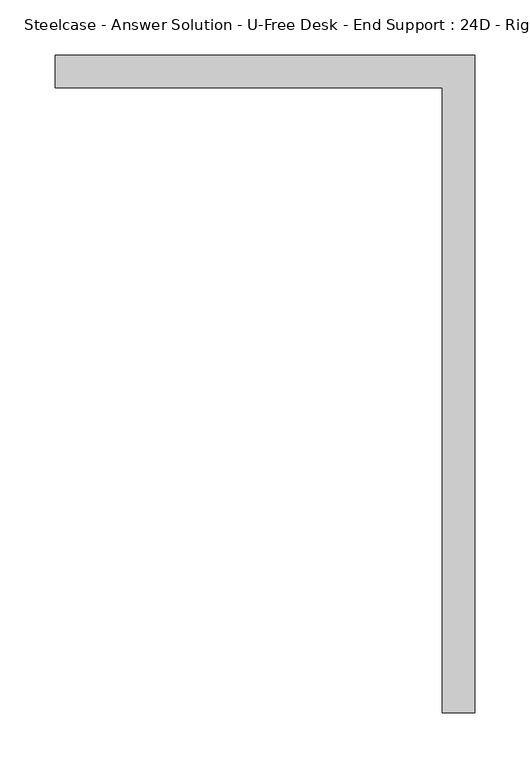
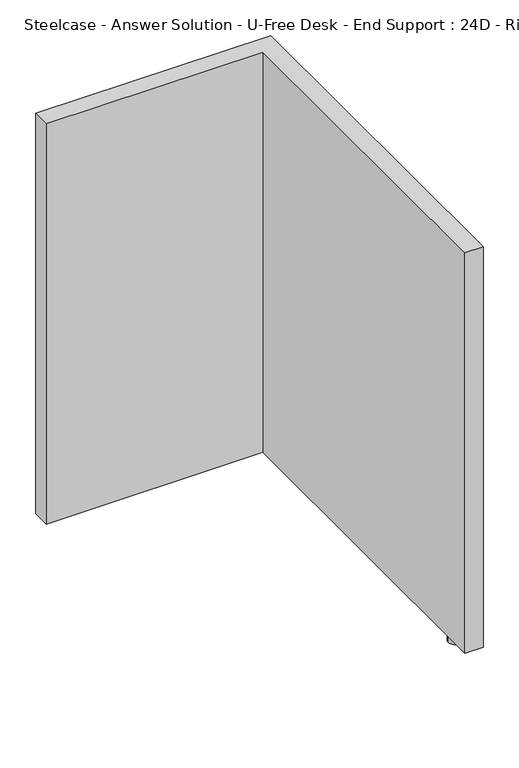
"""IFC4 building model written with IfcOpenShell, lengths in millimetres: furniture geometry, Steelcase - Answer Solution - U-Free Desk - End Support : 24D - Right."""

import ifcopenshell
import ifcopenshell.guid

model = None  # the IFC model being written
_history = None  # IfcOwnerHistory: only IFC2X3 demands one
_inside = {}  # id of a spatial element -> (the spatial element, [elements in it])
_under = {}  # id of a project, library or spatial element -> (it, [spatial elements below it])
_declared = {}  # id of a project -> (the project, [libraries it declares])
_typed = {}  # id of a type object -> (the type object, [elements of that type])
_made_of = {}  # id of a material, layer set ... -> (it, [elements and type objects made of it])


def new_model(schema):
    """Start an empty IFC model of exactly this schema.

    Asked for "IFC4X3", IfcOpenShell would pick the latest addendum, in which some entities
    have other attributes; the version numbers below select the first issue.
    IFC2X3 requires an IfcOwnerHistory on every rooted entity: one is made here for all.
    """
    global model, _history
    if schema == "IFC4X3":
        model = ifcopenshell.file(schema_version=(4, 3, 0, 0))
    else:
        model = ifcopenshell.file(schema=schema)
    _inside.clear()
    _under.clear()
    _declared.clear()
    _typed.clear()
    _made_of.clear()
    _history = None
    if model.schema == "IFC2X3":
        org = make("IfcOrganization", Name="unknown")
        user = make(
            "IfcPersonAndOrganization",
            ThePerson=make("IfcPerson", FamilyName="unknown"),
            TheOrganization=org,
        )
        app = make(
            "IfcApplication",
            ApplicationDeveloper=org,
            Version="unknown",
            ApplicationFullName="unknown",
            ApplicationIdentifier="unknown",
        )
        _history = make(
            "IfcOwnerHistory",
            OwningUser=user,
            OwningApplication=app,
            ChangeAction="ADDED",
            CreationDate=0,
        )
    return model


def make(cls, **values):
    """One entity of the class cls with the attributes given. An attribute that is None is left unset."""
    return model.create_entity(
        cls, **{name: value for name, value in values.items() if value is not None}
    )


def rooted(cls, **values):
    """An entity with a GlobalId (a new one), such as an element, a storey or a relation."""
    return make(cls, GlobalId=ifcopenshell.guid.new(), OwnerHistory=_history, **values)


def si_unit(unit_type, name, prefix=None):
    """IfcSIUnit, for example si_unit("LENGTHUNIT", "METRE", prefix="MILLI")."""
    return make("IfcSIUnit", UnitType=unit_type, Prefix=prefix, Name=name)


def assignment(units):
    """IfcUnitAssignment: the units of a project."""
    return None if units is None else make("IfcUnitAssignment", Units=units)


def point(xyz):
    """IfcCartesianPoint."""
    return None if xyz is None else make("IfcCartesianPoint", Coordinates=xyz)


def direction(xyz):
    """IfcDirection."""
    return None if xyz is None else make("IfcDirection", DirectionRatios=xyz)


def frame(location, z_axis=None, x_axis=None):
    """IfcAxis2Placement3D, a coordinate frame: its origin and axes. An axis left out is left unset."""
    return make(
        "IfcAxis2Placement3D",
        Location=point(location),
        Axis=direction(z_axis),
        RefDirection=direction(x_axis),
    )


def frame_2d(location, x_axis=None):
    """IfcAxis2Placement2D, a coordinate frame in the plane: its origin and x axis."""
    return make(
        "IfcAxis2Placement2D", Location=point(location), RefDirection=direction(x_axis)
    )


def origin():
    """The frame at (0, 0, 0) with its axes left unset."""
    return frame((0.0, 0.0, 0.0))


def origin_with_axes():
    """The frame at (0, 0, 0) with the z axis (0, 0, 1) and the x axis (1, 0, 0) written out."""
    return frame((0.0, 0.0, 0.0), z_axis=(0.0, 0.0, 1.0), x_axis=(1.0, 0.0, 0.0))


def place(relative_to, where):
    """IfcLocalPlacement: puts the frame where relative to a parent placement (None: the world)."""
    return make(
        "IfcLocalPlacement", PlacementRelTo=relative_to, RelativePlacement=where
    )


def context(
    kind, dimensions, precision=None, world=None, true_north=None, identifier=None
):
    """IfcGeometricRepresentationContext, for example the 3D "Model" context."""
    return make(
        "IfcGeometricRepresentationContext",
        ContextIdentifier=identifier,
        ContextType=kind,
        CoordinateSpaceDimension=dimensions,
        Precision=precision,
        WorldCoordinateSystem=world,
        TrueNorth=true_north,
    )


def project(units=None, contexts=None):
    """IfcProject with its units and contexts."""
    return rooted(
        "IfcProject",
        Name="project",
        RepresentationContexts=contexts,
        UnitsInContext=assignment(units),
    )


def spatial(cls, under=None, at=None, **own):
    """A site, building, storey or space (cls), placed at a placement, below another one or the project."""
    s = rooted(cls, ObjectPlacement=at, **own)
    if under is not None:
        _under.setdefault(under.id(), (under, []))[1].append(s)
    return s


def polyline(points):
    """IfcPolyline through the points."""
    return make("IfcPolyline", Points=[point(p) for p in points])


def circle_curve(where, radius):
    """IfcCircle in the frame where."""
    return make("IfcCircle", Position=where, Radius=radius)


def trimmed(basis, trim1, trim2, sense, master):
    """IfcTrimmedCurve: the piece of a basis curve between two trims."""
    return make(
        "IfcTrimmedCurve",
        BasisCurve=basis,
        Trim1=trim1,
        Trim2=trim2,
        SenseAgreement=sense,
        MasterRepresentation=master,
    )


def segment(curve, same_sense, transition):
    """IfcCompositeCurveSegment."""
    return make(
        "IfcCompositeCurveSegment",
        Transition=transition,
        SameSense=same_sense,
        ParentCurve=curve,
    )


def composite_curve(segments, self_intersect=None):
    """IfcCompositeCurve: segments joined end to end."""
    return make("IfcCompositeCurve", Segments=segments, SelfIntersect=self_intersect)


def outline(outer, holes=None, kind="AREA"):
    """IfcArbitraryClosedProfileDef: a profile drawn as a closed curve; with holes, ...WithVoids."""
    if holes is None:
        return make("IfcArbitraryClosedProfileDef", ProfileType=kind, OuterCurve=outer)
    return make(
        "IfcArbitraryProfileDefWithVoids",
        ProfileType=kind,
        OuterCurve=outer,
        InnerCurves=holes,
    )


def extrude(swept, where, along, depth):
    """IfcExtrudedAreaSolid: the profile swept, set in the frame where, extruded along a direction by depth."""
    return make(
        "IfcExtrudedAreaSolid",
        SweptArea=swept,
        Position=where,
        ExtrudedDirection=direction(along),
        Depth=depth,
    )


def shape(context_of_items, identifier, shape_type, items):
    """IfcShapeRepresentation: the items that make up one representation, for example the "Body"."""
    return make(
        "IfcShapeRepresentation",
        ContextOfItems=context_of_items,
        RepresentationIdentifier=identifier,
        RepresentationType=shape_type,
        Items=items,
    )


def source(mapping_origin, context_of_items, identifier, shape_type, items):
    """IfcRepresentationMap: a shape defined once, which mapped items show again and again."""
    return make(
        "IfcRepresentationMap",
        MappingOrigin=mapping_origin,
        MappedRepresentation=shape(context_of_items, identifier, shape_type, items),
    )


def transform(
    local_origin,
    x_axis=None,
    y_axis=None,
    z_axis=None,
    scale=None,
    scale2=None,
    scale3=None,
    uniform=True,
):
    """IfcCartesianTransformationOperator3D, or its non-uniform kind. x_axis, y_axis, z_axis: its Axis1, 2, 3."""
    if uniform:
        return make(
            "IfcCartesianTransformationOperator3D",
            Axis1=direction(x_axis),
            Axis2=direction(y_axis),
            LocalOrigin=point(local_origin),
            Scale=scale,
            Axis3=direction(z_axis),
        )
    return make(
        "IfcCartesianTransformationOperator3DnonUniform",
        Axis1=direction(x_axis),
        Axis2=direction(y_axis),
        LocalOrigin=point(local_origin),
        Scale=scale,
        Axis3=direction(z_axis),
        Scale2=scale2,
        Scale3=scale3,
    )


def mapped(mapping_source, mapping_target):
    """IfcMappedItem: shows the shape of a source again, moved by a transform."""
    return make(
        "IfcMappedItem", MappingSource=mapping_source, MappingTarget=mapping_target
    )


def made_of(thing, what):
    """Note that an element or type object is made of a material, layer set ...; save() writes the relation."""
    if what is not None:
        _made_of.setdefault(what.id(), (what, []))[1].append(thing)
    return thing


def element(
    cls,
    number,
    at=None,
    inside=None,
    cuts=None,
    type_object=None,
    material=None,
    context=None,
    identifier="Body",
    shape_type=None,
    held_by="IfcProductDefinitionShape",
    body=None,
    shapes=None,
    **own,
):
    """One element of the class cls, such as IfcWall. Its Tag is "e" and its number.

    at: its placement. inside: the storey or other place that contains it. cuts: it is an
    opening in that element (IfcRelVoidsElement). A single representation is given by context,
    identifier, shape_type and body (its items); several are given by shapes. held_by: the class
    of the entity that holds the representations. save() writes the other relations.
    """
    e = rooted(cls, Tag="e%d" % number, ObjectPlacement=at, **own)
    if body is not None:
        shapes = [shape(context, identifier, shape_type, body)]
    if shapes is not None:
        e.Representation = make(held_by, Representations=shapes)
    if inside is not None:
        _inside.setdefault(inside.id(), (inside, []))[1].append(e)
    if cuts is not None:
        rooted(
            "IfcRelVoidsElement", RelatingBuildingElement=cuts, RelatedOpeningElement=e
        )
    if type_object is not None:
        _typed.setdefault(type_object.id(), (type_object, []))[1].append(e)
    return made_of(e, material)


def aggregate(whole, parts):
    """IfcRelAggregates: a whole, such as a stair, and the parts it consists of."""
    return rooted("IfcRelAggregates", RelatingObject=whole, RelatedObjects=parts)


def save(model, path):
    """Write the relations noted so far, then the file.

    IfcRelAggregates (storeys below a building ...), IfcRelContainedInSpatialStructure (elements
    in a storey), IfcRelDefinesByType, IfcRelAssociatesMaterial and IfcRelDeclares: one each for
    every whole, place, type object, material and project.
    """
    for whole, parts in _under.values():
        aggregate(whole, parts)
    for where, things in _inside.values():
        rooted(
            "IfcRelContainedInSpatialStructure",
            RelatedElements=things,
            RelatingStructure=where,
        )
    for kind, things in _typed.values():
        rooted("IfcRelDefinesByType", RelatedObjects=things, RelatingType=kind)
    for what, things in _made_of.values():
        rooted("IfcRelAssociatesMaterial", RelatedObjects=things, RelatingMaterial=what)
    for by, libraries in _declared.values():
        rooted("IfcRelDeclares", RelatingContext=by, RelatedDefinitions=libraries)
    model.write(path)


def steelcase_answer_solution_u_free_desk_end_support_24d_right_f5ae7126(model_context):
    return source(origin(), model_context, "Body", "SweptSolid", [
        extrude(outline(composite_curve([segment(trimmed(circle_curve(frame_2d((369.0626362, -548.4767813)), 12.7), [point((356.3626362, -548.4767813))], [point((381.7626362, -548.4767813))], False, "CARTESIAN"), True, "CONTINUOUS"), segment(trimmed(circle_curve(frame_2d((369.0626362, -548.4767813)), 12.7), [point((381.7626362, -548.4767813))], [point((356.3626362, -548.4767813))], False, "CARTESIAN"), True, "CONTINUOUS")], self_intersect=False)), origin_with_axes(), (0.0, 0.0, 1.0), 12.7000004),
        extrude(outline(polyline([(384.1009381, -2.0011718), (384.1009381, -598.9011718), (354.3067394, -598.9011718), (354.3067394, -31.6936406), (3.1009381, -31.6936406), (3.1009381, -2.0011718), (384.1009381, -2.0011718)])), frame((0.0, 0.0, 12.7000004), z_axis=(0.0, 0.0, 1.0), x_axis=(1.0, 0.0, 0.0)), (0.0, 0.0, 1.0), 685.8),
    ])


if __name__ == "__main__":
    model = new_model("IFC4")
    model_context = context("Model", 3, world=origin())
    ifc_project = project(units=[si_unit("LENGTHUNIT", "METRE", prefix="MILLI")], contexts=[model_context])
    site = spatial("IfcSite", under=ifc_project)
    building = spatial("IfcBuilding", under=site)
    placement = place(None, origin())
    steelcase_answer_solution_u_free_desk_end_support_24d_right_shape = steelcase_answer_solution_u_free_desk_end_support_24d_right_f5ae7126(model_context)
    element("IfcFurniture", 1, ObjectType="Steelcase - Answer Solution - U-Free Desk - End Support : 24D - Right", at=placement, inside=building, context=model_context, shape_type="MappedRepresentation", body=[
        mapped(steelcase_answer_solution_u_free_desk_end_support_24d_right_shape, transform((0.0, 0.0, 0.0), x_axis=(1.0, 0.0, 0.0), y_axis=(0.0, 1.0, 0.0), z_axis=(0.0, 0.0, 1.0))),
    ])
    save(model, "model.ifc")
